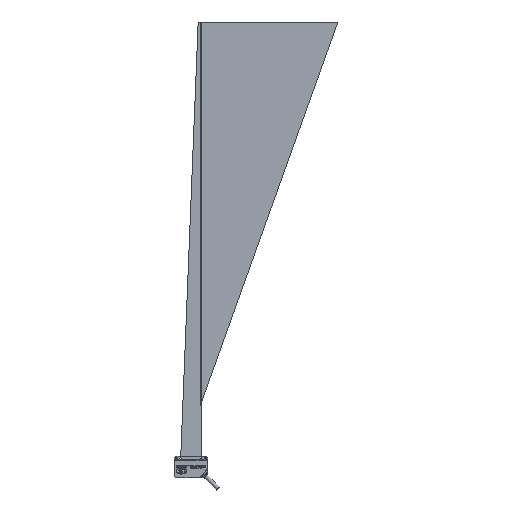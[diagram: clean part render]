
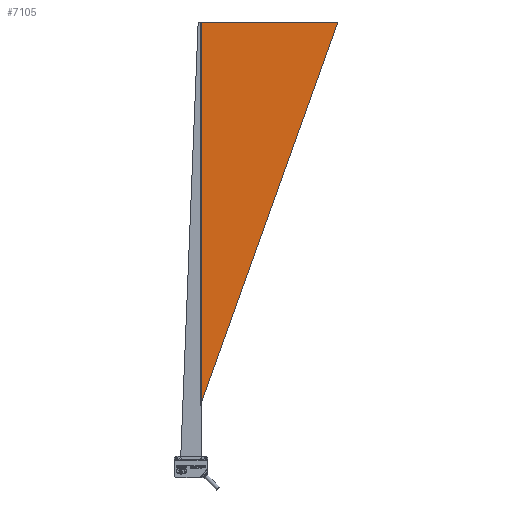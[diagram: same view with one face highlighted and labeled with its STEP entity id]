
A CAD part, front view. The second image highlights one B-rep face of the part: STEP entity #7105.
In plain terms, the highlighted planar face has unit normal (0, -1, 0).
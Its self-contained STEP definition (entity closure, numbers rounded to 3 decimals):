
#6323 = CARTESIAN_POINT ( 'NONE',  ( 13., -1.5, 75. ) ) ;
#7105 = ADVANCED_FACE ( 'NONE', ( #37441 ), #25514, .F. ) ;
#7487 = LINE ( 'NONE', #15517, #60787 ) ;
#12178 = EDGE_CURVE ( 'NONE', #64840, #43948, #46518, .T. ) ;
#13524 = DIRECTION ( 'NONE',  ( 0., 0., 1. ) ) ;
#15517 = CARTESIAN_POINT ( 'NONE',  ( 13., -1.5, 605. ) ) ;
#20126 = CARTESIAN_POINT ( 'NONE',  ( 0., -1.5, 0. ) ) ;
#25514 = PLANE ( 'NONE',  #57401 ) ;
#26421 = VECTOR ( 'NONE', #13524, 1000. ) ;
#30023 = EDGE_CURVE ( 'NONE', #33595, #64840, #7487, .T. ) ;
#30410 = CARTESIAN_POINT ( 'NONE',  ( 203., -1.5, 605. ) ) ;
#33363 = CARTESIAN_POINT ( 'NONE',  ( 203., -1.5, 605. ) ) ;
#33595 = VERTEX_POINT ( 'NONE', #44385 ) ;
#36005 = VECTOR ( 'NONE', #56199, 1000. ) ;
#37441 = FACE_OUTER_BOUND ( 'NONE', #57629, .T. ) ;
#39454 = CARTESIAN_POINT ( 'NONE',  ( 13., -1.5, 75. ) ) ;
#43948 = VERTEX_POINT ( 'NONE', #6323 ) ;
#44385 = CARTESIAN_POINT ( 'NONE',  ( 13., -1.5, 605. ) ) ;
#46518 = LINE ( 'NONE', #30410, #36005 ) ;
#47443 = LINE ( 'NONE', #39454, #26421 ) ;
#52099 = EDGE_CURVE ( 'NONE', #43948, #33595, #47443, .T. ) ;
#53401 = ORIENTED_EDGE ( 'NONE', *, *, #30023, .F. ) ;
#56199 = DIRECTION ( 'NONE',  ( -0.337, 0., -0.941 ) ) ;
#56656 = ORIENTED_EDGE ( 'NONE', *, *, #52099, .F. ) ;
#56785 = DIRECTION ( 'NONE',  ( 1., 0., 0. ) ) ;
#57253 = ORIENTED_EDGE ( 'NONE', *, *, #12178, .F. ) ;
#57401 = AXIS2_PLACEMENT_3D ( 'NONE', #20126, #66178, #61687 ) ;
#57629 = EDGE_LOOP ( 'NONE', ( #56656, #57253, #53401 ) ) ;
#60787 = VECTOR ( 'NONE', #56785, 1000. ) ;
#61687 = DIRECTION ( 'NONE',  ( 0., 0., 1. ) ) ;
#64840 = VERTEX_POINT ( 'NONE', #33363 ) ;
#66178 = DIRECTION ( 'NONE',  ( 0., 1., 0. ) ) ;
